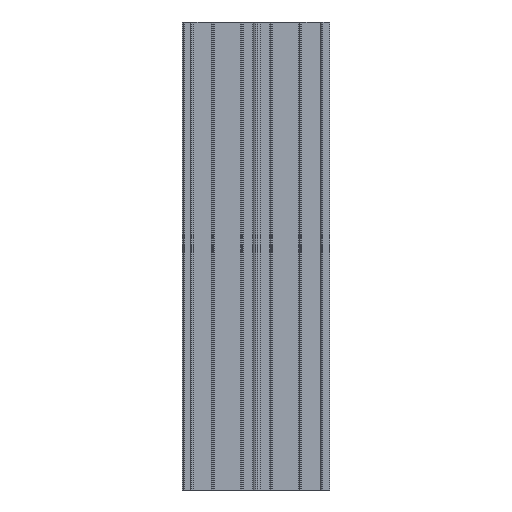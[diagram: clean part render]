
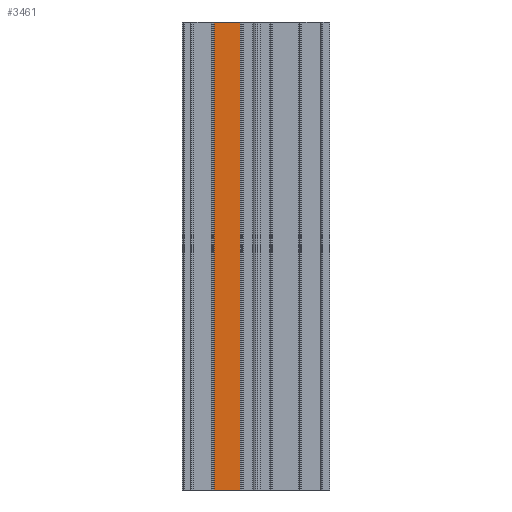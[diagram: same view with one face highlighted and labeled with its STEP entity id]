
A CAD part, front view. The second image highlights one B-rep face of the part: STEP entity #3461.
In plain terms, the highlighted planar face has unit normal (0, -1, 0).
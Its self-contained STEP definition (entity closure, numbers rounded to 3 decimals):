
#90=FACE_OUTER_BOUND('',#270,.T.);
#270=EDGE_LOOP('',(#2482,#2483,#2484,#2485));
#445=LINE('',#5011,#849);
#567=LINE('',#5382,#971);
#568=LINE('',#5385,#972);
#569=LINE('',#5386,#973);
#849=VECTOR('',#3980,10.);
#971=VECTOR('',#4248,10.);
#972=VECTOR('',#4251,10.);
#973=VECTOR('',#4252,10.);
#1388=VERTEX_POINT('',#5008);
#1389=VERTEX_POINT('',#5010);
#1565=VERTEX_POINT('',#5380);
#1566=VERTEX_POINT('',#5384);
#1744=EDGE_CURVE('',#1388,#1389,#445,.T.);
#1930=EDGE_CURVE('',#1388,#1565,#567,.T.);
#1931=EDGE_CURVE('',#1566,#1565,#568,.T.);
#1932=EDGE_CURVE('',#1389,#1566,#569,.T.);
#2482=ORIENTED_EDGE('',*,*,#1930,.T.);
#2483=ORIENTED_EDGE('',*,*,#1931,.F.);
#2484=ORIENTED_EDGE('',*,*,#1932,.F.);
#2485=ORIENTED_EDGE('',*,*,#1744,.F.);
#3342=PLANE('',#3730);
#3461=ADVANCED_FACE('',(#90),#3342,.T.);
#3730=AXIS2_PLACEMENT_3D('',#5383,#4249,#4250);
#3980=DIRECTION('',(-1.,0.,0.));
#4248=DIRECTION('',(0.,0.,1.));
#4249=DIRECTION('center_axis',(0.,-1.,0.));
#4250=DIRECTION('ref_axis',(1.,0.,0.));
#4251=DIRECTION('',(1.,0.,0.));
#4252=DIRECTION('',(0.,0.,1.));
#5008=CARTESIAN_POINT('',(-52.5,16.,-400.));
#5010=CARTESIAN_POINT('',(-97.5,16.,-400.));
#5011=CARTESIAN_POINT('',(-97.5,16.,-400.));
#5380=CARTESIAN_POINT('',(-52.5,16.,400.));
#5382=CARTESIAN_POINT('',(-52.5,16.,0.));
#5383=CARTESIAN_POINT('Origin',(-97.5,16.,0.));
#5384=CARTESIAN_POINT('',(-97.5,16.,400.));
#5385=CARTESIAN_POINT('',(-97.5,16.,400.));
#5386=CARTESIAN_POINT('',(-97.5,16.,0.));
